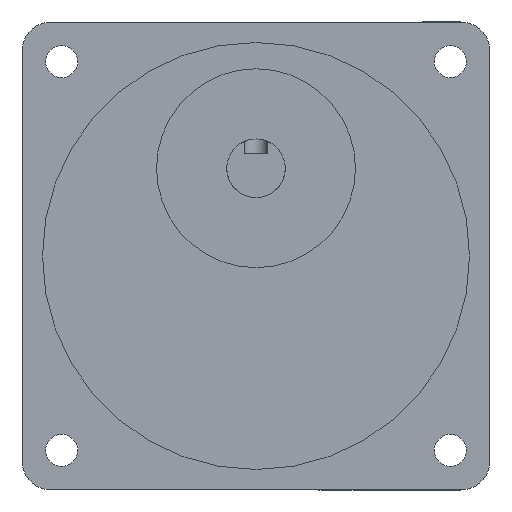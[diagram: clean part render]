
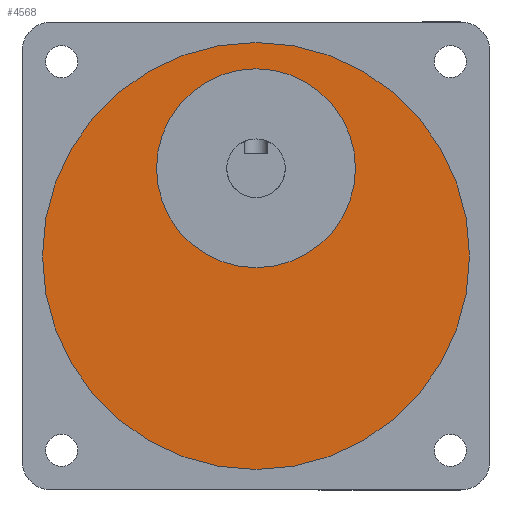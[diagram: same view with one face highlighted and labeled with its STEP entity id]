
A CAD part, front view. The second image highlights one B-rep face of the part: STEP entity #4568.
In plain terms, the highlighted planar face has unit normal (0, -1, 0).
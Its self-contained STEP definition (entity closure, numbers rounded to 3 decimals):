
#58 = VERTEX_POINT ( 'NONE', #470 ) ;
#230 = CARTESIAN_POINT ( 'NONE',  ( 40., -44., 55. ) ) ;
#365 = DIRECTION ( 'NONE',  ( 0., -1., 0. ) ) ;
#385 = CIRCLE ( 'NONE', #2245, 36.5 ) ;
#389 = CIRCLE ( 'NONE', #1288, 17. ) ;
#469 = EDGE_LOOP ( 'NONE', ( #567, #603 ) ) ;
#470 = CARTESIAN_POINT ( 'NONE',  ( 40., -44., 38. ) ) ;
#492 = FACE_OUTER_BOUND ( 'NONE', #469, .T. ) ;
#561 = DIRECTION ( 'NONE',  ( 0., -1., 0. ) ) ;
#567 = ORIENTED_EDGE ( 'NONE', *, *, #3668, .T. ) ;
#603 = ORIENTED_EDGE ( 'NONE', *, *, #1391, .T. ) ;
#643 = DIRECTION ( 'NONE',  ( 0., -1., 0. ) ) ;
#691 = CARTESIAN_POINT ( 'NONE',  ( 40., -44., 40. ) ) ;
#777 = VERTEX_POINT ( 'NONE', #3962 ) ;
#792 = CARTESIAN_POINT ( 'NONE',  ( 40., -44., 55. ) ) ;
#842 = DIRECTION ( 'NONE',  ( 0., -1., 0. ) ) ;
#1012 = AXIS2_PLACEMENT_3D ( 'NONE', #230, #561, #3593 ) ;
#1288 = AXIS2_PLACEMENT_3D ( 'NONE', #792, #842, #3403 ) ;
#1391 = EDGE_CURVE ( 'NONE', #2226, #777, #2600, .T. ) ;
#1402 = DIRECTION ( 'NONE',  ( 0., 0., -1. ) ) ;
#1485 = CARTESIAN_POINT ( 'NONE',  ( 40., -44., 40. ) ) ;
#1628 = EDGE_CURVE ( 'NONE', #2737, #58, #389, .T. ) ;
#1813 = DIRECTION ( 'NONE',  ( 0., 0., -1. ) ) ;
#1815 = EDGE_LOOP ( 'NONE', ( #4767, #3217 ) ) ;
#2226 = VERTEX_POINT ( 'NONE', #3840 ) ;
#2245 = AXIS2_PLACEMENT_3D ( 'NONE', #1485, #365, #1813 ) ;
#2319 = EDGE_CURVE ( 'NONE', #58, #2737, #2811, .T. ) ;
#2527 = DIRECTION ( 'NONE',  ( 0., 0., -1. ) ) ;
#2600 = CIRCLE ( 'NONE', #3401, 36.5 ) ;
#2737 = VERTEX_POINT ( 'NONE', #3133 ) ;
#2811 = CIRCLE ( 'NONE', #1012, 17. ) ;
#2849 = CARTESIAN_POINT ( 'NONE',  ( 40., -44., 40. ) ) ;
#3133 = CARTESIAN_POINT ( 'NONE',  ( 40., -44., 72. ) ) ;
#3217 = ORIENTED_EDGE ( 'NONE', *, *, #2319, .F. ) ;
#3401 = AXIS2_PLACEMENT_3D ( 'NONE', #2849, #4393, #2527 ) ;
#3403 = DIRECTION ( 'NONE',  ( 0., 0., -1. ) ) ;
#3593 = DIRECTION ( 'NONE',  ( 0., 0., -1. ) ) ;
#3668 = EDGE_CURVE ( 'NONE', #777, #2226, #385, .T. ) ;
#3840 = CARTESIAN_POINT ( 'NONE',  ( 40., -44., 76.5 ) ) ;
#3962 = CARTESIAN_POINT ( 'NONE',  ( 40., -44., 3.5 ) ) ;
#4392 = PLANE ( 'NONE',  #4645 ) ;
#4393 = DIRECTION ( 'NONE',  ( 0., -1., 0. ) ) ;
#4525 = FACE_BOUND ( 'NONE', #1815, .T. ) ;
#4568 = ADVANCED_FACE ( 'NONE', ( #4525, #492 ), #4392, .T. ) ;
#4645 = AXIS2_PLACEMENT_3D ( 'NONE', #691, #643, #1402 ) ;
#4767 = ORIENTED_EDGE ( 'NONE', *, *, #1628, .F. ) ;
